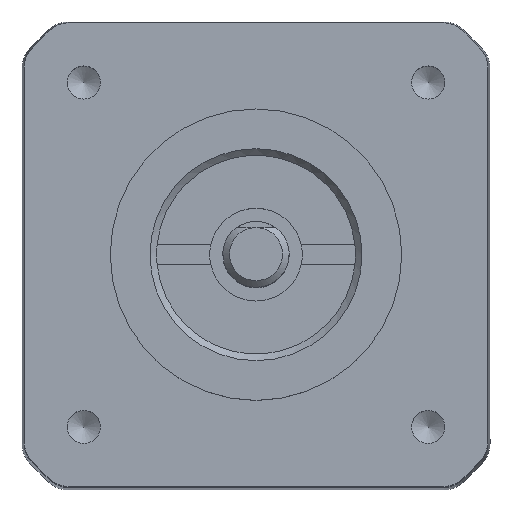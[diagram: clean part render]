
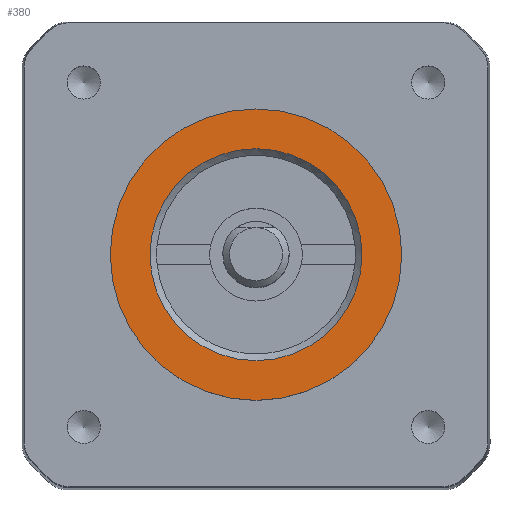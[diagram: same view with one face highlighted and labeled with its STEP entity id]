
A CAD part, top view. The second image highlights one B-rep face of the part: STEP entity #380.
In plain terms, the highlighted planar face has unit normal (0, 0, 1).
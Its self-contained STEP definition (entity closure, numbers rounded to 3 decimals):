
#380 = ADVANCED_FACE ( 'NONE', ( #72210, #65880 ), #7899, .T. ) ;
#1101 = CIRCLE ( 'NONE', #78155, 11. ) ;
#7666 = EDGE_CURVE ( 'NONE', #32721, #32721, #50142, .T. ) ;
#7899 = PLANE ( 'NONE',  #79469 ) ;
#8964 = CARTESIAN_POINT ( 'NONE',  ( 11., 0., 39.25 ) ) ;
#10979 = AXIS2_PLACEMENT_3D ( 'NONE', #48555, #60010, #15991 ) ;
#12406 = CARTESIAN_POINT ( 'NONE',  ( 8., 0., 39.25 ) ) ;
#14159 = DIRECTION ( 'NONE',  ( 1., 0., 0. ) ) ;
#15991 = DIRECTION ( 'NONE',  ( 1., 0., 0. ) ) ;
#27797 = DIRECTION ( 'NONE',  ( 0., 0., 1. ) ) ;
#28658 = EDGE_CURVE ( 'NONE', #33972, #33972, #1101, .T. ) ;
#32721 = VERTEX_POINT ( 'NONE', #12406 ) ;
#33972 = VERTEX_POINT ( 'NONE', #8964 ) ;
#47278 = DIRECTION ( 'NONE',  ( 1., 0., 0. ) ) ;
#48555 = CARTESIAN_POINT ( 'NONE',  ( 0., 0., 39.25 ) ) ;
#48857 = EDGE_LOOP ( 'NONE', ( #68992 ) ) ;
#50142 = CIRCLE ( 'NONE', #10979, 8. ) ;
#50965 = DIRECTION ( 'NONE',  ( 0., 0., 1. ) ) ;
#60010 = DIRECTION ( 'NONE',  ( 0., 0., 1. ) ) ;
#60361 = CARTESIAN_POINT ( 'NONE',  ( 0., 0., 39.25 ) ) ;
#65880 = FACE_OUTER_BOUND ( 'NONE', #48857, .T. ) ;
#68992 = ORIENTED_EDGE ( 'NONE', *, *, #28658, .T. ) ;
#72083 = CARTESIAN_POINT ( 'NONE',  ( 0., 0., 39.25 ) ) ;
#72210 = FACE_BOUND ( 'NONE', #72258, .T. ) ;
#72258 = EDGE_LOOP ( 'NONE', ( #82728 ) ) ;
#78155 = AXIS2_PLACEMENT_3D ( 'NONE', #72083, #50965, #14159 ) ;
#79469 = AXIS2_PLACEMENT_3D ( 'NONE', #60361, #27797, #47278 ) ;
#82728 = ORIENTED_EDGE ( 'NONE', *, *, #7666, .F. ) ;
